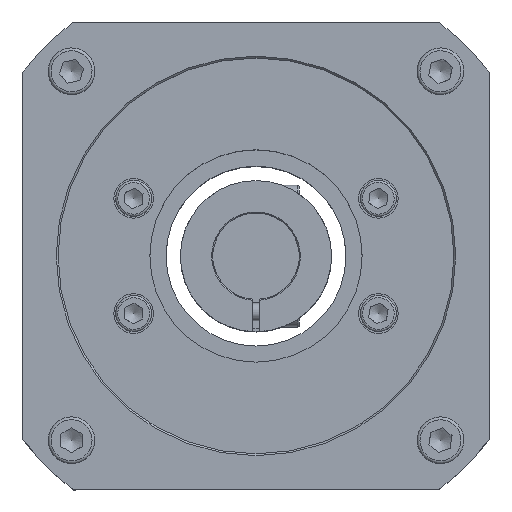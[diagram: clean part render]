
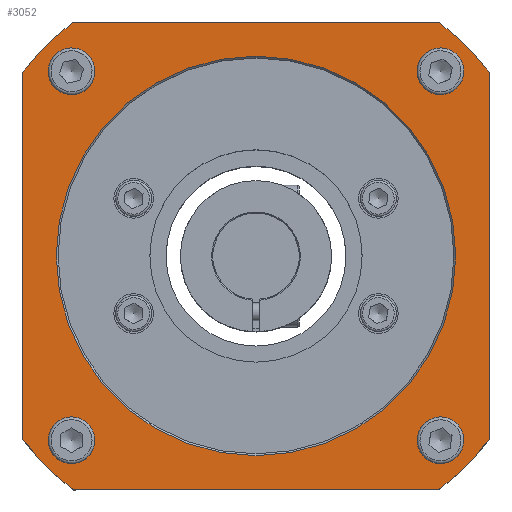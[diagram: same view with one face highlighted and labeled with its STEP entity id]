
A CAD part, top view. The second image highlights one B-rep face of the part: STEP entity #3052.
In plain terms, the highlighted planar face has unit normal (0, 0, 1).
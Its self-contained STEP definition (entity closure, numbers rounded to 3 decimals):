
#259=LINE('',#5301,#407);
#260=LINE('',#5305,#408);
#261=LINE('',#5309,#409);
#262=LINE('',#5312,#410);
#407=VECTOR('',#4200,101.612);
#408=VECTOR('',#4203,101.612);
#409=VECTOR('',#4206,101.612);
#410=VECTOR('',#4209,101.612);
#558=PLANE('',#3400);
#674=FACE_BOUND('',#1169,.T.);
#675=FACE_BOUND('',#1170,.T.);
#676=FACE_BOUND('',#1171,.T.);
#677=FACE_BOUND('',#1172,.T.);
#678=FACE_BOUND('',#1173,.T.);
#874=FACE_OUTER_BOUND('',#1168,.T.);
#1168=EDGE_LOOP('',(#2636,#2637,#2638,#2639,#2640,#2641,#2642,#2643));
#1169=EDGE_LOOP('',(#2644));
#1170=EDGE_LOOP('',(#2645));
#1171=EDGE_LOOP('',(#2646));
#1172=EDGE_LOOP('',(#2647));
#1173=EDGE_LOOP('',(#2648));
#1404=CIRCLE('',#3397,55.5);
#1406=CIRCLE('',#3401,82.5);
#1407=CIRCLE('',#3402,82.5);
#1408=CIRCLE('',#3403,82.5);
#1409=CIRCLE('',#3404,82.5);
#1410=CIRCLE('',#3405,3.324);
#1411=CIRCLE('',#3406,3.324);
#1412=CIRCLE('',#3407,3.324);
#1413=CIRCLE('',#3408,3.324);
#1652=VERTEX_POINT('',#5291);
#1654=VERTEX_POINT('',#5297);
#1655=VERTEX_POINT('',#5298);
#1656=VERTEX_POINT('',#5300);
#1657=VERTEX_POINT('',#5302);
#1658=VERTEX_POINT('',#5304);
#1659=VERTEX_POINT('',#5306);
#1660=VERTEX_POINT('',#5308);
#1661=VERTEX_POINT('',#5310);
#1662=VERTEX_POINT('',#5313);
#1663=VERTEX_POINT('',#5315);
#1664=VERTEX_POINT('',#5317);
#1665=VERTEX_POINT('',#5319);
#2001=EDGE_CURVE('',#1652,#1652,#1404,.T.);
#2003=EDGE_CURVE('',#1654,#1655,#1406,.T.);
#2004=EDGE_CURVE('',#1656,#1655,#259,.T.);
#2005=EDGE_CURVE('',#1656,#1657,#1407,.T.);
#2006=EDGE_CURVE('',#1658,#1657,#260,.T.);
#2007=EDGE_CURVE('',#1658,#1659,#1408,.T.);
#2008=EDGE_CURVE('',#1660,#1659,#261,.T.);
#2009=EDGE_CURVE('',#1660,#1661,#1409,.T.);
#2010=EDGE_CURVE('',#1654,#1661,#262,.T.);
#2011=EDGE_CURVE('',#1662,#1662,#1410,.T.);
#2012=EDGE_CURVE('',#1663,#1663,#1411,.T.);
#2013=EDGE_CURVE('',#1664,#1664,#1412,.T.);
#2014=EDGE_CURVE('',#1665,#1665,#1413,.T.);
#2636=ORIENTED_EDGE('',*,*,#2003,.T.);
#2637=ORIENTED_EDGE('',*,*,#2004,.F.);
#2638=ORIENTED_EDGE('',*,*,#2005,.T.);
#2639=ORIENTED_EDGE('',*,*,#2006,.F.);
#2640=ORIENTED_EDGE('',*,*,#2007,.T.);
#2641=ORIENTED_EDGE('',*,*,#2008,.F.);
#2642=ORIENTED_EDGE('',*,*,#2009,.T.);
#2643=ORIENTED_EDGE('',*,*,#2010,.F.);
#2644=ORIENTED_EDGE('',*,*,#2011,.T.);
#2645=ORIENTED_EDGE('',*,*,#2012,.T.);
#2646=ORIENTED_EDGE('',*,*,#2013,.T.);
#2647=ORIENTED_EDGE('',*,*,#2014,.T.);
#2648=ORIENTED_EDGE('',*,*,#2001,.F.);
#3052=ADVANCED_FACE('',(#874,#674,#675,#676,#677,#678),#558,.T.);
#3397=AXIS2_PLACEMENT_3D('',#5292,#4190,#4191);
#3400=AXIS2_PLACEMENT_3D('',#5296,#4196,#4197);
#3401=AXIS2_PLACEMENT_3D('',#5299,#4198,#4199);
#3402=AXIS2_PLACEMENT_3D('',#5303,#4201,#4202);
#3403=AXIS2_PLACEMENT_3D('',#5307,#4204,#4205);
#3404=AXIS2_PLACEMENT_3D('',#5311,#4207,#4208);
#3405=AXIS2_PLACEMENT_3D('',#5314,#4210,#4211);
#3406=AXIS2_PLACEMENT_3D('',#5316,#4212,#4213);
#3407=AXIS2_PLACEMENT_3D('',#5318,#4214,#4215);
#3408=AXIS2_PLACEMENT_3D('',#5320,#4216,#4217);
#4190=DIRECTION('center_axis',(0.,0.,1.));
#4191=DIRECTION('ref_axis',(0.,-1.,0.));
#4196=DIRECTION('center_axis',(0.,0.,1.));
#4197=DIRECTION('ref_axis',(1.,0.,0.));
#4198=DIRECTION('center_axis',(0.,0.,1.));
#4199=DIRECTION('ref_axis',(-1.,0.,0.));
#4200=DIRECTION('',(0.,1.,0.));
#4201=DIRECTION('center_axis',(0.,0.,1.));
#4202=DIRECTION('ref_axis',(-1.,0.,0.));
#4203=DIRECTION('',(-1.,0.,0.));
#4204=DIRECTION('center_axis',(0.,0.,1.));
#4205=DIRECTION('ref_axis',(-1.,0.,0.));
#4206=DIRECTION('',(0.,-1.,0.));
#4207=DIRECTION('center_axis',(0.,0.,1.));
#4208=DIRECTION('ref_axis',(-1.,0.,0.));
#4209=DIRECTION('',(1.,0.,0.));
#4210=DIRECTION('center_axis',(0.,0.,-1.));
#4211=DIRECTION('ref_axis',(1.,0.,0.));
#4212=DIRECTION('center_axis',(0.,0.,-1.));
#4213=DIRECTION('ref_axis',(1.,0.,0.));
#4214=DIRECTION('center_axis',(0.,0.,-1.));
#4215=DIRECTION('ref_axis',(1.,0.,0.));
#4216=DIRECTION('center_axis',(0.,0.,-1.));
#4217=DIRECTION('ref_axis',(1.,0.,0.));
#5291=CARTESIAN_POINT('',(0.,55.5,29.5));
#5292=CARTESIAN_POINT('Origin',(0.,0.,29.5));
#5296=CARTESIAN_POINT('Origin',(0.,0.,
29.5));
#5297=CARTESIAN_POINT('',(-50.806,65.,29.5));
#5298=CARTESIAN_POINT('',(-65.,50.806,29.5));
#5299=CARTESIAN_POINT('Origin',(0.,0.,29.5));
#5300=CARTESIAN_POINT('',(-65.,-50.806,29.5));
#5301=CARTESIAN_POINT('',(-65.,65.,29.5));
#5302=CARTESIAN_POINT('',(-50.806,-65.,29.5));
#5303=CARTESIAN_POINT('Origin',(0.,0.,29.5));
#5304=CARTESIAN_POINT('',(50.806,-65.,29.5));
#5305=CARTESIAN_POINT('',(-65.,-65.,29.5));
#5306=CARTESIAN_POINT('',(65.,-50.806,29.5));
#5307=CARTESIAN_POINT('Origin',(0.,0.,29.5));
#5308=CARTESIAN_POINT('',(65.,50.806,29.5));
#5309=CARTESIAN_POINT('',(65.,-65.,29.5));
#5310=CARTESIAN_POINT('',(50.806,65.,29.5));
#5311=CARTESIAN_POINT('Origin',(0.,0.,29.5));
#5312=CARTESIAN_POINT('',(65.,65.,29.5));
#5313=CARTESIAN_POINT('',(-47.942,51.265,29.5));
#5314=CARTESIAN_POINT('Origin',(-51.265,51.265,29.5));
#5315=CARTESIAN_POINT('',(54.589,-51.265,29.5));
#5316=CARTESIAN_POINT('Origin',(51.265,-51.265,29.5));
#5317=CARTESIAN_POINT('',(-47.942,-51.265,29.5));
#5318=CARTESIAN_POINT('Origin',(-51.265,-51.265,29.5));
#5319=CARTESIAN_POINT('',(54.589,51.265,29.5));
#5320=CARTESIAN_POINT('Origin',(51.265,51.265,29.5));
